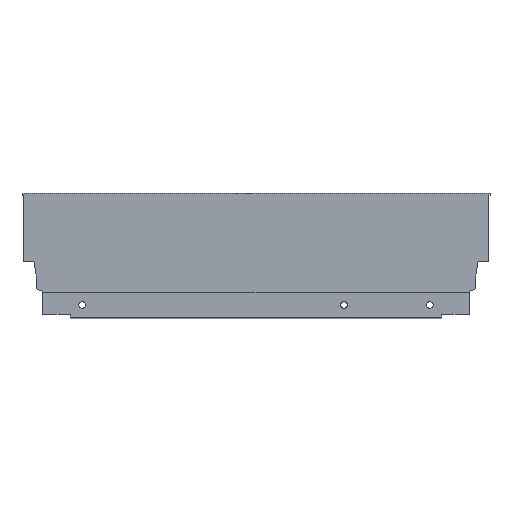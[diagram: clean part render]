
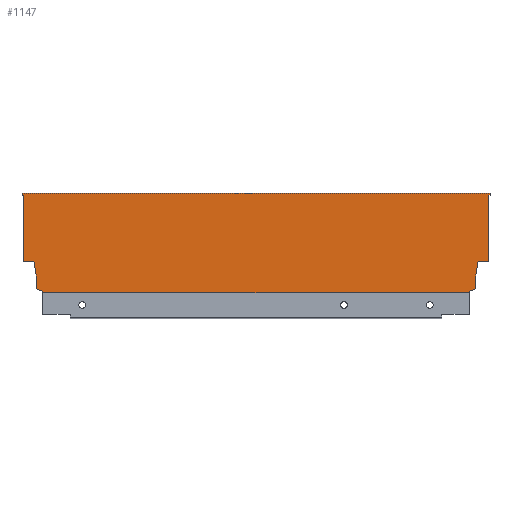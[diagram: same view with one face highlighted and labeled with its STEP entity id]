
A CAD part, top view. The second image highlights one B-rep face of the part: STEP entity #1147.
In plain terms, the highlighted planar face has unit normal (0, 0, 1).
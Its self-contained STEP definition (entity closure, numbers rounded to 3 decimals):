
#17 = ORIENTED_EDGE ( 'NONE', *, *, #1237, .F. ) ;
#18 = ORIENTED_EDGE ( 'NONE', *, *, #1226, .F. ) ;
#19 = ORIENTED_EDGE ( 'NONE', *, *, #1229, .T. ) ;
#21 = EDGE_LOOP ( 'NONE', ( #60, #69, #150, #129, #128, #18, #17, #146, #142, #19, #70, #56, #140, #141, #137, #138, #139, #136 ) ) ;
#56 = ORIENTED_EDGE ( 'NONE', *, *, #1243, .F. ) ;
#60 = ORIENTED_EDGE ( 'NONE', *, *, #1235, .F. ) ;
#69 = ORIENTED_EDGE ( 'NONE', *, *, #1230, .F. ) ;
#70 = ORIENTED_EDGE ( 'NONE', *, *, #1241, .F. ) ;
#128 = ORIENTED_EDGE ( 'NONE', *, *, #1233, .F. ) ;
#129 = ORIENTED_EDGE ( 'NONE', *, *, #1232, .T. ) ;
#136 = ORIENTED_EDGE ( 'NONE', *, *, #1244, .F. ) ;
#137 = ORIENTED_EDGE ( 'NONE', *, *, #1240, .F. ) ;
#138 = ORIENTED_EDGE ( 'NONE', *, *, #1208, .F. ) ;
#139 = ORIENTED_EDGE ( 'NONE', *, *, #1242, .F. ) ;
#140 = ORIENTED_EDGE ( 'NONE', *, *, #1236, .F. ) ;
#141 = ORIENTED_EDGE ( 'NONE', *, *, #1238, .F. ) ;
#142 = ORIENTED_EDGE ( 'NONE', *, *, #1239, .F. ) ;
#146 = ORIENTED_EDGE ( 'NONE', *, *, #1234, .F. ) ;
#150 = ORIENTED_EDGE ( 'NONE', *, *, #1231, .T. ) ;
#338 = VERTEX_POINT ( 'NONE', #785 ) ;
#347 = VERTEX_POINT ( 'NONE', #792 ) ;
#353 = VERTEX_POINT ( 'NONE', #798 ) ;
#355 = VERTEX_POINT ( 'NONE', #800 ) ;
#359 = VERTEX_POINT ( 'NONE', #804 ) ;
#360 = VERTEX_POINT ( 'NONE', #805 ) ;
#361 = VERTEX_POINT ( 'NONE', #806 ) ;
#363 = VERTEX_POINT ( 'NONE', #808 ) ;
#364 = VERTEX_POINT ( 'NONE', #809 ) ;
#365 = VERTEX_POINT ( 'NONE', #810 ) ;
#367 = VERTEX_POINT ( 'NONE', #812 ) ;
#368 = VERTEX_POINT ( 'NONE', #813 ) ;
#371 = VERTEX_POINT ( 'NONE', #816 ) ;
#372 = VERTEX_POINT ( 'NONE', #817 ) ;
#376 = VERTEX_POINT ( 'NONE', #821 ) ;
#381 = VERTEX_POINT ( 'NONE', #826 ) ;
#394 = VERTEX_POINT ( 'NONE', #839 ) ;
#459 = FACE_OUTER_BOUND ( 'NONE', #21, .T. ) ;
#540 = LINE ( 'NONE', #1415, #541 ) ;
#541 = VECTOR ( 'NONE', #1416, 1000. ) ;
#570 = LINE ( 'NONE', #1445, #572 ) ;
#572 = VECTOR ( 'NONE', #1454, 1000. ) ;
#574 = LINE ( 'NONE', #1464, #588 ) ;
#575 = LINE ( 'NONE', #1462, #582 ) ;
#576 = LINE ( 'NONE', #1453, #580 ) ;
#578 = LINE ( 'NONE', #1460, #579 ) ;
#579 = VECTOR ( 'NONE', #1461, 1000. ) ;
#580 = VECTOR ( 'NONE', #1463, 1000. ) ;
#581 = LINE ( 'NONE', #1470, #590 ) ;
#582 = VECTOR ( 'NONE', #1465, 1000. ) ;
#583 = LINE ( 'NONE', #1472, #592 ) ;
#584 = LINE ( 'NONE', #1466, #585 ) ;
#585 = VECTOR ( 'NONE', #1467, 1000. ) ;
#586 = LINE ( 'NONE', #1468, #587 ) ;
#587 = VECTOR ( 'NONE', #1469, 1000. ) ;
#588 = VECTOR ( 'NONE', #1471, 1000. ) ;
#589 = LINE ( 'NONE', #1474, #594 ) ;
#590 = VECTOR ( 'NONE', #1473, 1000. ) ;
#591 = LINE ( 'NONE', #1476, #596 ) ;
#592 = VECTOR ( 'NONE', #1475, 1000. ) ;
#593 = LINE ( 'NONE', #1478, #598 ) ;
#594 = VECTOR ( 'NONE', #1477, 1000. ) ;
#595 = LINE ( 'NONE', #1480, #602 ) ;
#596 = VECTOR ( 'NONE', #1479, 1000. ) ;
#597 = LINE ( 'NONE', #1484, #608 ) ;
#598 = VECTOR ( 'NONE', #1481, 1000. ) ;
#600 = LINE ( 'NONE', #1482, #601 ) ;
#601 = VECTOR ( 'NONE', #1483, 1000. ) ;
#602 = VECTOR ( 'NONE', #1485, 1000. ) ;
#604 = LINE ( 'NONE', #1486, #605 ) ;
#605 = VECTOR ( 'NONE', #1487, 1000. ) ;
#606 = LINE ( 'NONE', #1488, #607 ) ;
#607 = VECTOR ( 'NONE', #1489, 1000. ) ;
#608 = VECTOR ( 'NONE', #1491, 1000. ) ;
#749 = VERTEX_POINT ( 'NONE', #852 ) ;
#785 = CARTESIAN_POINT ( 'NONE',  ( -318., 68., 7.5 ) ) ;
#792 = CARTESIAN_POINT ( 'NONE',  ( -303.996, 1.146, 7.5 ) ) ;
#798 = CARTESIAN_POINT ( 'NONE',  ( -13.004, 0., 7.5 ) ) ;
#800 = CARTESIAN_POINT ( 'NONE',  ( 1., 68., 7.5 ) ) ;
#804 = CARTESIAN_POINT ( 'NONE',  ( -13.004, 1.146, 7.5 ) ) ;
#805 = CARTESIAN_POINT ( 'NONE',  ( -318., 66.5, 7.5 ) ) ;
#806 = CARTESIAN_POINT ( 'NONE',  ( -317., 21.2, 7.5 ) ) ;
#808 = CARTESIAN_POINT ( 'NONE',  ( -8.9, 2.64, 7.5 ) ) ;
#809 = CARTESIAN_POINT ( 'NONE',  ( -317., 66.5, 7.5 ) ) ;
#810 = CARTESIAN_POINT ( 'NONE',  ( -8.9, 10.765, 7.5 ) ) ;
#812 = CARTESIAN_POINT ( 'NONE',  ( 0., 66.5, 7.5 ) ) ;
#813 = CARTESIAN_POINT ( 'NONE',  ( -7.06, 21.2, 7.5 ) ) ;
#816 = CARTESIAN_POINT ( 'NONE',  ( -308.1, 10.765, 7.5 ) ) ;
#817 = CARTESIAN_POINT ( 'NONE',  ( 0., 21.2, 7.5 ) ) ;
#821 = CARTESIAN_POINT ( 'NONE',  ( -309.94, 21.2, 7.5 ) ) ;
#826 = CARTESIAN_POINT ( 'NONE',  ( -308.1, 2.64, 7.5 ) ) ;
#839 = CARTESIAN_POINT ( 'NONE',  ( -303.996, 0., 7.5 ) ) ;
#852 = CARTESIAN_POINT ( 'NONE',  ( 1., 66.5, 7.5 ) ) ;
#892 = PLANE ( 'NONE',  #1347 ) ;
#895 = CARTESIAN_POINT ( 'NONE',  ( -317., 0., 7.5 ) ) ;
#901 = DIRECTION ( 'NONE',  ( 0., 0., 1. ) ) ;
#902 = DIRECTION ( 'NONE',  ( 1., 0., 0. ) ) ;
#1147 = ADVANCED_FACE ( 'NONE', ( #459 ), #892, .T. ) ;
#1208 = EDGE_CURVE ( 'NONE', #367, #372, #540, .T. ) ;
#1226 = EDGE_CURVE ( 'NONE', #371, #376, #570, .T. ) ;
#1229 = EDGE_CURVE ( 'NONE', #394, #353, #578, .T. ) ;
#1230 = EDGE_CURVE ( 'NONE', #360, #338, #576, .T. ) ;
#1231 = EDGE_CURVE ( 'NONE', #360, #364, #575, .T. ) ;
#1232 = EDGE_CURVE ( 'NONE', #364, #361, #584, .T. ) ;
#1233 = EDGE_CURVE ( 'NONE', #376, #361, #586, .T. ) ;
#1234 = EDGE_CURVE ( 'NONE', #347, #381, #574, .T. ) ;
#1235 = EDGE_CURVE ( 'NONE', #338, #355, #581, .T. ) ;
#1236 = EDGE_CURVE ( 'NONE', #365, #363, #583, .T. ) ;
#1237 = EDGE_CURVE ( 'NONE', #381, #371, #589, .T. ) ;
#1238 = EDGE_CURVE ( 'NONE', #368, #365, #591, .T. ) ;
#1239 = EDGE_CURVE ( 'NONE', #394, #347, #593, .T. ) ;
#1240 = EDGE_CURVE ( 'NONE', #372, #368, #600, .T. ) ;
#1241 = EDGE_CURVE ( 'NONE', #359, #353, #595, .T. ) ;
#1242 = EDGE_CURVE ( 'NONE', #749, #367, #604, .T. ) ;
#1243 = EDGE_CURVE ( 'NONE', #363, #359, #606, .T. ) ;
#1244 = EDGE_CURVE ( 'NONE', #355, #749, #597, .T. ) ;
#1347 = AXIS2_PLACEMENT_3D ( 'NONE', #895, #901, #902 ) ;
#1415 = CARTESIAN_POINT ( 'NONE',  ( 0., 0., 7.5 ) ) ;
#1416 = DIRECTION ( 'NONE',  ( 0., -1., 0. ) ) ;
#1445 = CARTESIAN_POINT ( 'NONE',  ( -309.94, 21.2, 7.5 ) ) ;
#1453 = CARTESIAN_POINT ( 'NONE',  ( -318., 66.5, 7.5 ) ) ;
#1454 = DIRECTION ( 'NONE',  ( -0.174, 0.985, 0. ) ) ;
#1460 = CARTESIAN_POINT ( 'NONE',  ( -317., 0., 7.5 ) ) ;
#1461 = DIRECTION ( 'NONE',  ( 1., 0., 0. ) ) ;
#1462 = CARTESIAN_POINT ( 'NONE',  ( -318., 66.5, 7.5 ) ) ;
#1463 = DIRECTION ( 'NONE',  ( 0., 1., 0. ) ) ;
#1464 = CARTESIAN_POINT ( 'NONE',  ( -308.1, 2.64, 7.5 ) ) ;
#1465 = DIRECTION ( 'NONE',  ( 1., 0., 0. ) ) ;
#1466 = CARTESIAN_POINT ( 'NONE',  ( -317., 0., 7.5 ) ) ;
#1467 = DIRECTION ( 'NONE',  ( 0., -1., 0. ) ) ;
#1468 = CARTESIAN_POINT ( 'NONE',  ( -322., 21.2, 7.5 ) ) ;
#1469 = DIRECTION ( 'NONE',  ( -1., 0., 0. ) ) ;
#1470 = CARTESIAN_POINT ( 'NONE',  ( -317., 68., 7.5 ) ) ;
#1471 = DIRECTION ( 'NONE',  ( -0.94, 0.342, 0. ) ) ;
#1472 = CARTESIAN_POINT ( 'NONE',  ( -8.9, 10.765, 7.5 ) ) ;
#1473 = DIRECTION ( 'NONE',  ( 1., 0., 0. ) ) ;
#1474 = CARTESIAN_POINT ( 'NONE',  ( -308.1, 10.765, 7.5 ) ) ;
#1475 = DIRECTION ( 'NONE',  ( 0., -1., 0. ) ) ;
#1476 = CARTESIAN_POINT ( 'NONE',  ( -7.06, 21.2, 7.5 ) ) ;
#1477 = DIRECTION ( 'NONE',  ( 0., 1., 0. ) ) ;
#1478 = CARTESIAN_POINT ( 'NONE',  ( -303.996, 1.146, 7.5 ) ) ;
#1479 = DIRECTION ( 'NONE',  ( -0.174, -0.985, 0. ) ) ;
#1480 = CARTESIAN_POINT ( 'NONE',  ( -13.004, 1.146, 7.5 ) ) ;
#1481 = DIRECTION ( 'NONE',  ( 0., 1., 0. ) ) ;
#1482 = CARTESIAN_POINT ( 'NONE',  ( 0., 21.2, 7.5 ) ) ;
#1483 = DIRECTION ( 'NONE',  ( -1., 0., 0. ) ) ;
#1484 = CARTESIAN_POINT ( 'NONE',  ( 1., 68., 7.5 ) ) ;
#1485 = DIRECTION ( 'NONE',  ( 0., -1., 0. ) ) ;
#1486 = CARTESIAN_POINT ( 'NONE',  ( 1., 66.5, 7.5 ) ) ;
#1487 = DIRECTION ( 'NONE',  ( -1., 0., 0. ) ) ;
#1488 = CARTESIAN_POINT ( 'NONE',  ( -8.9, 2.64, 7.5 ) ) ;
#1489 = DIRECTION ( 'NONE',  ( -0.94, -0.342, 0. ) ) ;
#1491 = DIRECTION ( 'NONE',  ( 0., -1., 0. ) ) ;
